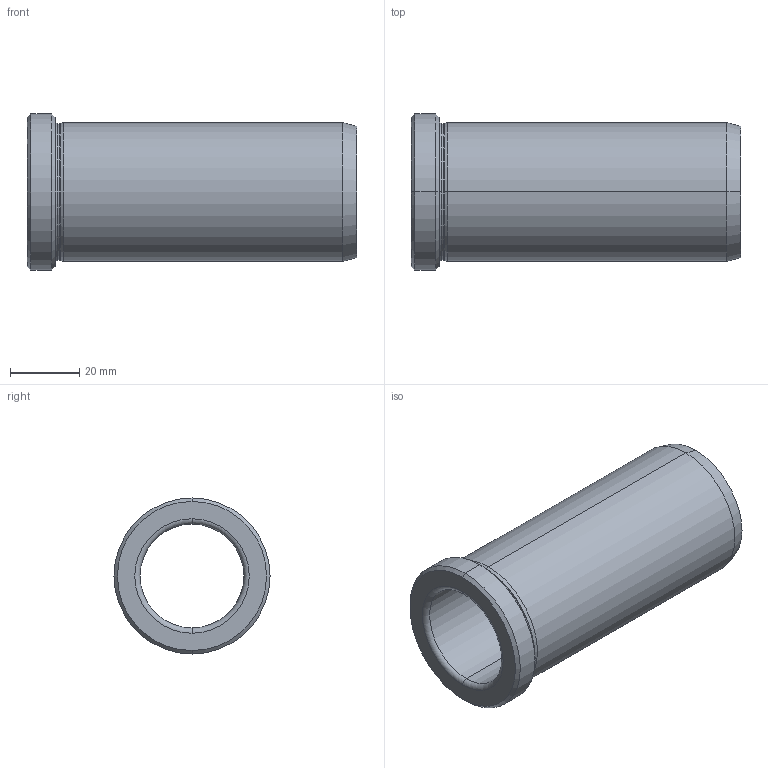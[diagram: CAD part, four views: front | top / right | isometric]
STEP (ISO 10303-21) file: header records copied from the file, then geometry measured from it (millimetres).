
FILE_DESCRIPTION (( 'STEP AP214' ), '1' );
FILE_NAME ('BRCVBG-30X95.STEP', '2020-07-21T12:35:40', ( '' ), ( '' ), 'SwSTEP 2.0', 'SolidWorks 2018', '' );
FILE_SCHEMA (( 'AUTOMOTIVE_DESIGN' ));
Length unit declared in the file: millimetre
Products named in the file (1): BRCVBG-30X95
Bounding box: 95 x 45 x 45 mm (x, y, z)
Volume: 54653 mm3; surface area: 22355 mm2
Topology: 1 solids, 1 shells, 30 faces, 60 edges, 34 vertices
Faces by surface type: cylinder 10, cone 8, torus 8, plane 4
Entity records: 820 total; most frequent: DIRECTION 164, CARTESIAN_POINT 125, ORIENTED_EDGE 120, AXIS2_PLACEMENT_3D 73, EDGE_CURVE 60, CIRCLE 42, VERTEX_POINT 34, EDGE_LOOP 34
